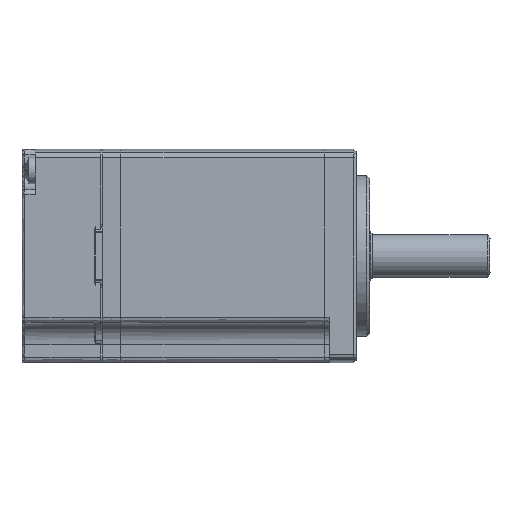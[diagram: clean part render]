
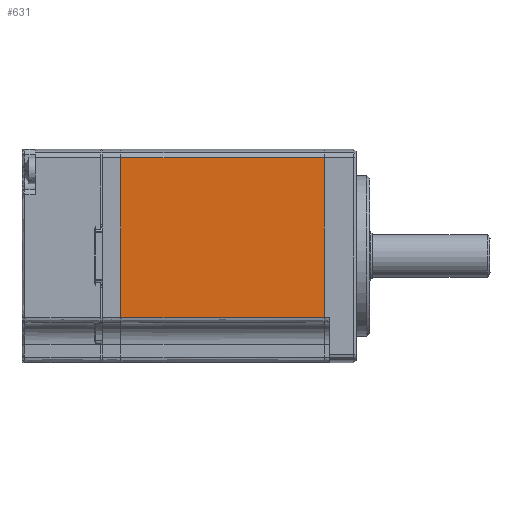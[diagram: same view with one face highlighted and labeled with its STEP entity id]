
A CAD part, front view. The second image highlights one B-rep face of the part: STEP entity #631.
In plain terms, the highlighted planar face has unit normal (0, 1, 0).
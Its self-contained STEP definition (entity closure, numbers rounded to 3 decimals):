
#631=ADVANCED_FACE('',(#1148),#8754,.T.);
#1148=FACE_OUTER_BOUND('',#1708,.T.);
#1708=EDGE_LOOP('',(#4143,#4144,#4145,#4146));
#4143=ORIENTED_EDGE('',*,*,#5669,.T.);
#4144=ORIENTED_EDGE('',*,*,#5670,.T.);
#4145=ORIENTED_EDGE('',*,*,#5671,.T.);
#4146=ORIENTED_EDGE('',*,*,#5672,.T.);
#5669=EDGE_CURVE('',#8185,#8186,#7201,.T.);
#5670=EDGE_CURVE('',#8186,#8187,#7202,.T.);
#5671=EDGE_CURVE('',#8187,#8188,#7203,.T.);
#5672=EDGE_CURVE('',#8188,#8185,#7204,.T.);
#7201=B_SPLINE_CURVE_WITH_KNOTS('',1,(#24184,#24185),.UNSPECIFIED.,.F.,
 .F.,(2,2),(0.,38.),.UNSPECIFIED.);
#7202=B_SPLINE_CURVE_WITH_KNOTS('',1,(#24186,#24187),.UNSPECIFIED.,.F.,
 .F.,(2,2),(0.,29.897),.UNSPECIFIED.);
#7203=B_SPLINE_CURVE_WITH_KNOTS('',1,(#24188,#24189),.UNSPECIFIED.,.F.,
 .F.,(2,2),(0.,38.),.UNSPECIFIED.);
#7204=B_SPLINE_CURVE_WITH_KNOTS('',1,(#24190,#24191),.UNSPECIFIED.,.F.,
 .F.,(2,2),(0.,29.897),.UNSPECIFIED.);
#8185=VERTEX_POINT('',#24122);
#8186=VERTEX_POINT('',#24123);
#8187=VERTEX_POINT('',#24124);
#8188=VERTEX_POINT('',#24125);
#8754=PLANE('',#8959);
#8959=AXIS2_PLACEMENT_3D('',#23862,#9147,$);
#9147=DIRECTION('',(0.,1.,0.));
#23862=CARTESIAN_POINT('',(-29.051,-20.,46.637));
#24122=CARTESIAN_POINT('',(-25.25,-20.,43.647));
#24123=CARTESIAN_POINT('',(12.75,-20.,43.647));
#24124=CARTESIAN_POINT('',(12.75,-20.,13.75));
#24125=CARTESIAN_POINT('',(-25.25,-20.,13.75));
#24184=CARTESIAN_POINT('',(-25.25,-20.,43.647));
#24185=CARTESIAN_POINT('',(12.75,-20.,43.647));
#24186=CARTESIAN_POINT('',(12.75,-20.,43.647));
#24187=CARTESIAN_POINT('',(12.75,-20.,13.75));
#24188=CARTESIAN_POINT('',(12.75,-20.,13.75));
#24189=CARTESIAN_POINT('',(-25.25,-20.,13.75));
#24190=CARTESIAN_POINT('',(-25.25,-20.,13.75));
#24191=CARTESIAN_POINT('',(-25.25,-20.,43.647));
